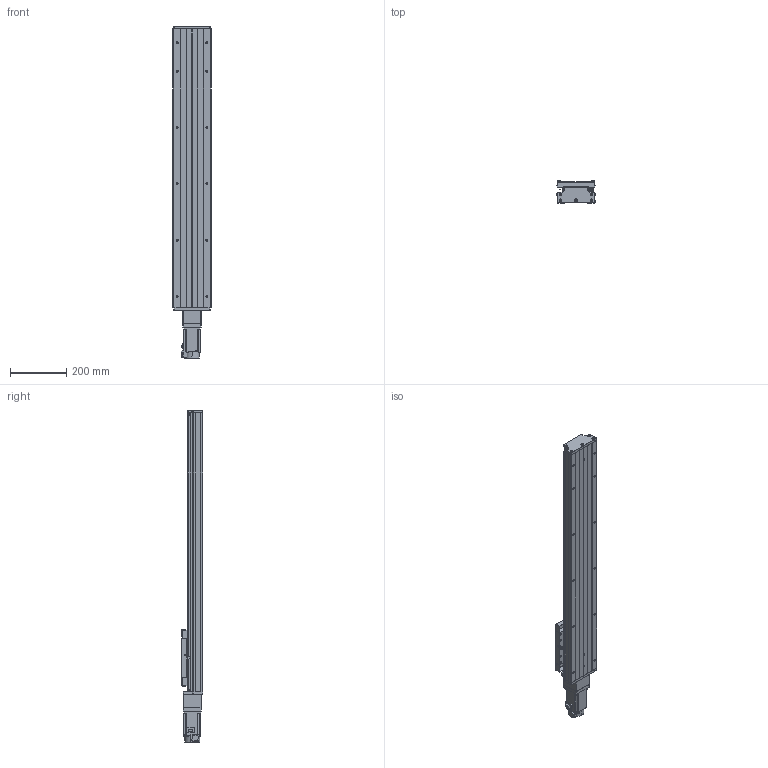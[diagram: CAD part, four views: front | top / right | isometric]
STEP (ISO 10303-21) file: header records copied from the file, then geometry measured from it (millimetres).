
FILE_DESCRIPTION (( 'STEP AP203' ), '1' );
FILE_NAME ('GTH14-750-BC-M40-C4.step', '2023-06-30T08:35:23', ( '微软用户' ), ( '微软中国' ), 'SwSTEP 2.0', 'SolidWorks 2020', '' );
FILE_SCHEMA (( 'CONFIG_CONTROL_DESIGN' ));
Length unit declared in the file: millimetre
Products named in the file (20): GTH14-002_GTH14-002; EE_SX911P_R; CTHA86-013; GTH14-004; CTHA60-016; CTHA86-027-1; GTH14-005; GBT 70.1-M3℅5; HG-KN43J-S100; GB1155-6X6; GBT77-2000 M3×3; GBT 70.3-M3℅8; GBT70.1 M5℅16; GTH14-031; GTH14-750-BC-M40-C4; GBT 70.2-M3¡Á5_M3¡Á6; す晦芛蹟隊 M3℅5; GTH14-001_750; CTHA60-017; CTHA86-006-1_M40
Assembly tree (57 placements, depth 2):
  GTH14-750-BC-M40-C4
    GTH14-001_750
    GTH14-002_GTH14-002
    GTH14-004
    GTH14-005
    GB1155-6X6  x2
    GBT70.1 M5℅16  x10
    GBT 70.2-M3¡Á5_M3¡Á6  x8
    CTHA60-017  x3
    EE_SX911P_R  x3
    CTHA60-016  x2
    GBT 70.1-M3℅5  x6
    GBT77-2000 M3×3  x6
    GTH14-031
    す晦芛蹟隊 M3℅5  x6
    CTHA86-006-1_M40
    CTHA86-013
    CTHA86-027-1
    HG-KN43J-S100
    GBT 70.3-M3℅8  x2
Bounding box: 135 x 78 x 1178.7 mm (x, y, z)
Volume: 5849206.9 mm3; surface area: 920203.7 mm2
Topology: 60 solids, 60 shells, 2424 faces, 5781 edges, 3570 vertices
Faces by surface type: plane 1304, cylinder 656, cone 304, torus 120, sphere 20, bspline 20
Entity records: 44728 total; most frequent: CARTESIAN_POINT 9947, DIRECTION 6576, ORIENTED_EDGE 6446, EDGE_CURVE 3223, AXIS2_PLACEMENT_3D 2243, LINE 2090, VECTOR 2090, VERTEX_POINT 2038
